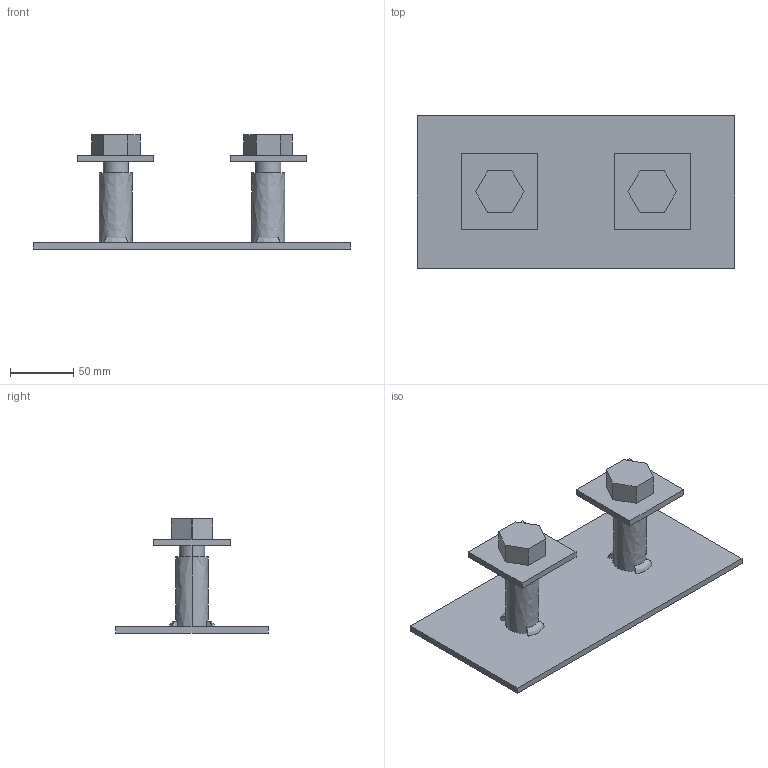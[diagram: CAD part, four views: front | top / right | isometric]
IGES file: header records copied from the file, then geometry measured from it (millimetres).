
Start section: 3D InterOp IGES (v. 2019 1.0.2), Spatial Corp. Copyright (c) 1999-2017.
Global section: file name: PAMP01.igs; native system: Spatial Corp.; preprocessor: 3D InterOp GENERIC/IGES 3.0; author: Noname; organization: Noname; date: 20210225.085149; units: millimetre
Bounding box: 250 x 120 x 90 mm (x, y, z)
Surface area: 97644.4 mm2 (no closed solid volume)
Topology: 0 solids, 0 shells, 70 faces, 360 edges, 360 vertices
Faces by surface type: extrusion 46, revolution 24
